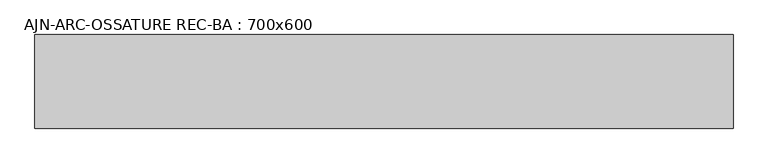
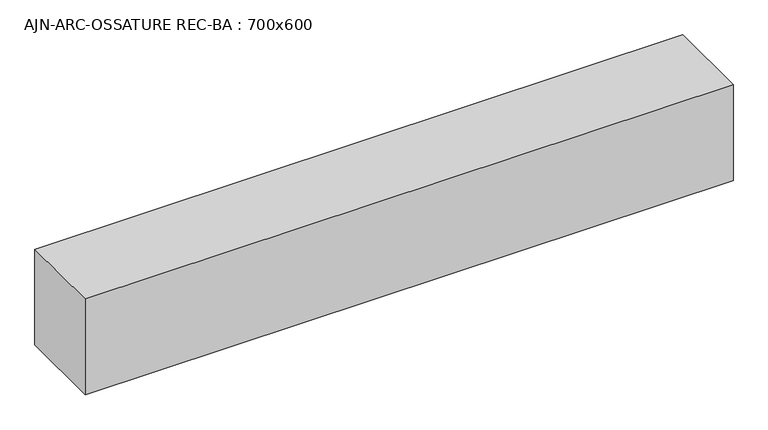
"""IFC4 building model written with IfcOpenShell, lengths in millimetres: beam geometry, AJN-ARC-OSSATURE REC-BA : 700x600."""

from ifc_helpers import new_model, si_unit, frame, origin, place, context, project, spatial, polyline, outline, extrude, source, transform, mapped, element, save


def ajn_arc_ossature_rec_ba_700x600_ab13cff5(model_context):
    return source(origin(), model_context, "Body", "SweptSolid", [
        extrude(outline(polyline([(2237.3, 300.0), (2237.3, -300.0), (-2237.3, -300.0), (-2237.3, 300.0), (2237.3, 300.0)])), frame((0.0, 0.0, -350.0), z_axis=(0.0, 0.0, 1.0), x_axis=(1.0, 0.0, 0.0)), (0.0, 0.0, 1.0), 700.0),
    ])


if __name__ == "__main__":
    model = new_model("IFC4")
    model_context = context("Model", 3, world=origin())
    ifc_project = project(units=[si_unit("LENGTHUNIT", "METRE", prefix="MILLI")], contexts=[model_context])
    site = spatial("IfcSite", under=ifc_project)
    building = spatial("IfcBuilding", under=site)
    placement = place(None, origin())
    ajn_arc_ossature_rec_ba_700x600_shape = ajn_arc_ossature_rec_ba_700x600_ab13cff5(model_context)
    element("IfcBeam", 1, ObjectType="AJN-ARC-OSSATURE REC-BA : 700x600", at=placement, inside=building, context=model_context, shape_type="MappedRepresentation", body=[
        mapped(ajn_arc_ossature_rec_ba_700x600_shape, transform((0.0, 0.0, 0.0), x_axis=(1.0, 0.0, 0.0), y_axis=(0.0, 1.0, 0.0), z_axis=(0.0, 0.0, 1.0))),
    ])
    save(model, "model.ifc")
